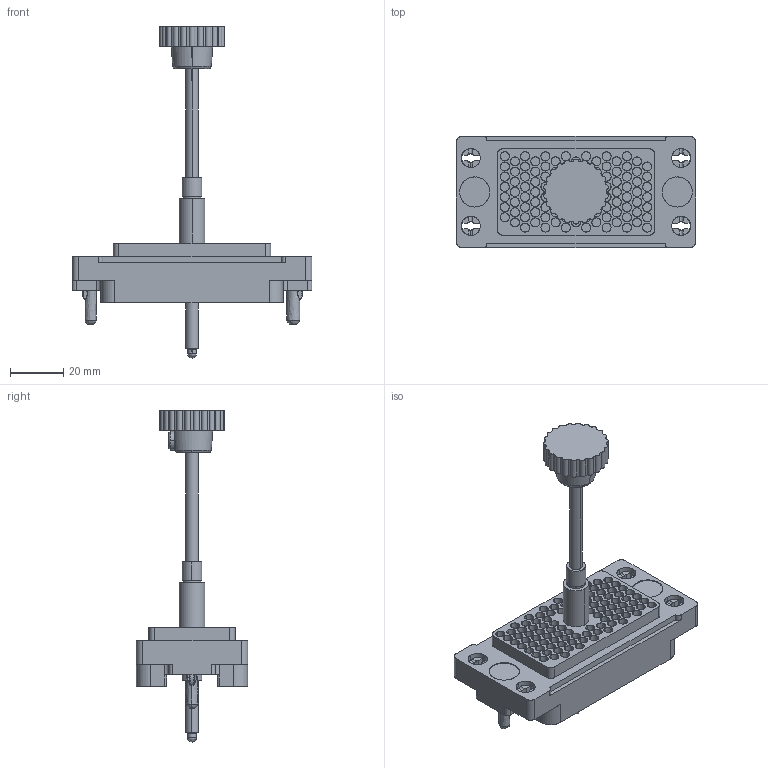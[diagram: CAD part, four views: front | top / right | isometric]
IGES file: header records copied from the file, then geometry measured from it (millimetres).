
Start section: SolidWorks IGES file using analytic representation for surfaces
Global section: file name: Q:\Kamikawa_Hisako\190116\8017\001J\00_8017_100_000_001-J\00_8017_100_000_001-J.IGS; native system: SolidWorks 2014; preprocessor: SolidWorks 2014; author: 151066016; date: 190313.133447; units: millimetre
Bounding box: 89.81 x 41.66 x 124.3 mm (x, y, z)
Surface area: 24465.5 mm2 (no closed solid volume)
Topology: 0 solids, 0 shells, 606 faces, 11441 edges, 11435 vertices
Faces by surface type: revolution 387, bspline 219
